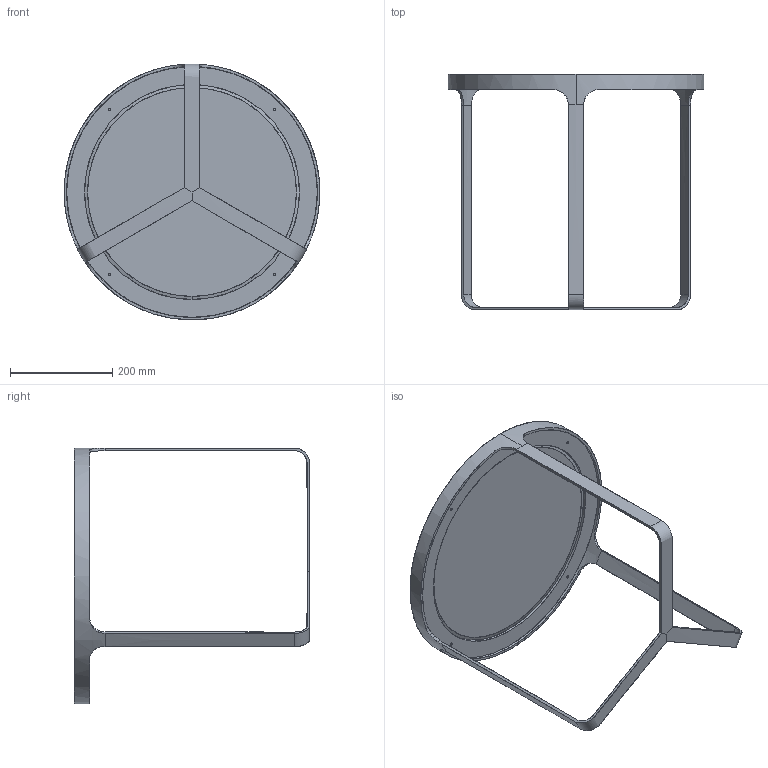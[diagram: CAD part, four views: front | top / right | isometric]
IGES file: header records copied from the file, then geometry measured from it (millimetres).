
Start section: SolidWorks IGES file using analytic representation for surfaces
Global section: file name: W:\design\GORDON GUILLAUMIER\CAGE\IGS\CAGE D50.IGS; native system: SolidWorks 2010; preprocessor: SolidWorks 2010; author: PC20; date: 150312.181843; units: millimetre
Bounding box: 500 x 460.06 x 500 mm (x, y, z)
Surface area: 738346.6 mm2 (no closed solid volume)
Topology: 0 solids, 0 shells, 50 faces, 2303 edges, 2553 vertices
Faces by surface type: bspline 30, revolution 20
